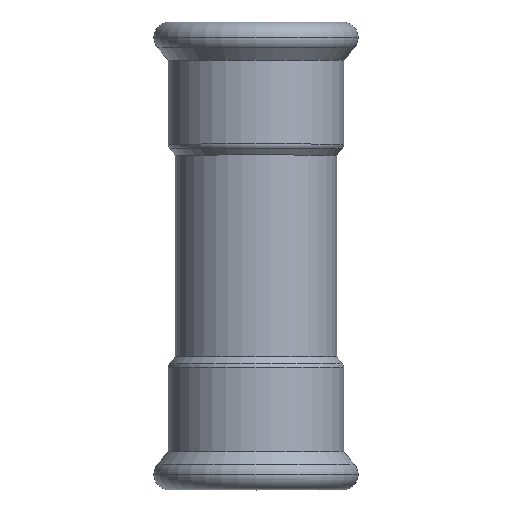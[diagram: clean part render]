
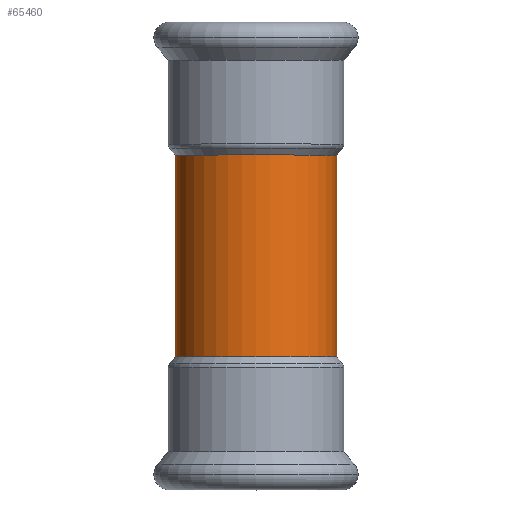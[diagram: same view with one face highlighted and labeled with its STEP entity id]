
A CAD part, top view. The second image highlights one B-rep face of the part: STEP entity #65460.
In plain terms, the highlighted cylindrical face has radius 17.594 mm (diameter 35.189 mm), a partial arc.
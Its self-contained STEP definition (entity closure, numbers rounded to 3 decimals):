
#21200=CARTESIAN_POINT('',(278.14,74.904,
22.));
#21210=DIRECTION('',(0.,0.,1.));
#21220=DIRECTION('',(-1.,0.,0.));
#21230=AXIS2_PLACEMENT_3D('',#21200,#21210,#21220);
#21240=CYLINDRICAL_SURFACE('',#21230,17.594);
#33550=CARTESIAN_POINT('',(260.545,74.904,
22.));
#33560=DIRECTION('',(0.,0.,1.));
#33570=VECTOR('',#33560,1.);
#33580=LINE('',#33550,#33570);
#33590=CARTESIAN_POINT('',(260.545,74.904,
-22.));
#33600=VERTEX_POINT('',#33590);
#33610=CARTESIAN_POINT('',(260.545,74.904,
22.));
#33620=VERTEX_POINT('',#33610);
#33630=EDGE_CURVE('',#33600,#33620,#33580,.T.);
#33650=CARTESIAN_POINT('',(278.14,74.904,
22.));
#33660=DIRECTION('',(0.,0.,1.));
#33670=DIRECTION('',(-1.,0.,0.));
#33680=AXIS2_PLACEMENT_3D('',#33650,#33660,#33670);
#33690=CIRCLE('',#33680,17.594);
#33700=CARTESIAN_POINT('',(295.734,74.904,
22.));
#33710=VERTEX_POINT('',#33700);
#33740=CARTESIAN_POINT('',(295.734,74.904,
22.));
#33750=DIRECTION('',(0.,0.,1.));
#33760=VECTOR('',#33750,1.);
#33770=LINE('',#33740,#33760);
#33780=CARTESIAN_POINT('',(295.734,74.904,
-22.));
#33790=VERTEX_POINT('',#33780);
#33800=EDGE_CURVE('',#33790,#33710,#33770,.T.);
#33820=CARTESIAN_POINT('',(278.14,74.904,
-22.));
#33830=DIRECTION('',(0.,0.,-1.));
#33840=DIRECTION('',(1.,0.,0.));
#33850=AXIS2_PLACEMENT_3D('',#33820,#33830,#33840);
#33860=CIRCLE('',#33850,17.594);
#40050=EDGE_CURVE('',#33710,#33620,#33690,.T.);
#65090=EDGE_CURVE('',#33600,#33790,#33860,.T.);
#65400=ORIENTED_EDGE('',*,*,#33630,.T.);
#65410=ORIENTED_EDGE('',*,*,#65090,.F.);
#65420=ORIENTED_EDGE('',*,*,#33800,.F.);
#65430=ORIENTED_EDGE('',*,*,#40050,.F.);
#65440=EDGE_LOOP('',(#65430,#65420,#65410,#65400));
#65450=FACE_OUTER_BOUND('',#65440,.T.);
#65460=ADVANCED_FACE('',(#65450),#21240,.T.);
